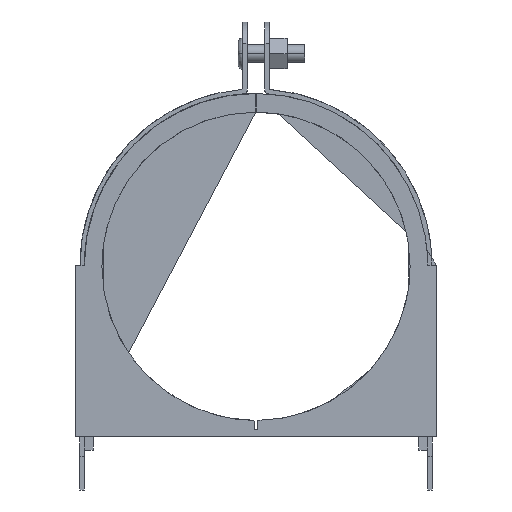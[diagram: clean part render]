
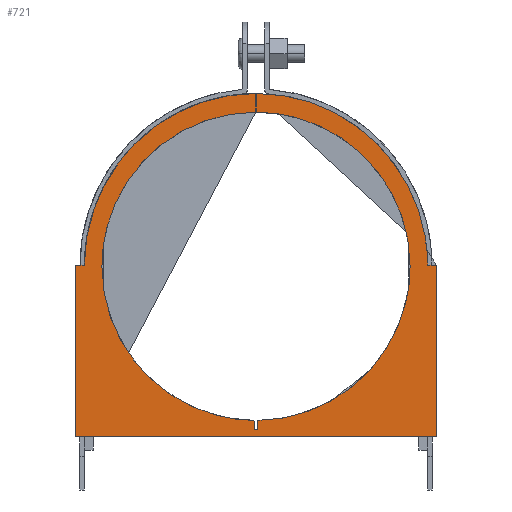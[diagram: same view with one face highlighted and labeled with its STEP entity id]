
A CAD part, front view. The second image highlights one B-rep face of the part: STEP entity #721.
In plain terms, the highlighted planar face has unit normal (0, -1, 0).
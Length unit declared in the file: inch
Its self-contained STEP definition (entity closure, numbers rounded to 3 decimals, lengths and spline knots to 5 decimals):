
#721=ADVANCED_FACE('',(#1559),#1560,.T.);
#1559=FACE_OUTER_BOUND('',#3083,.T.);
#1560=PLANE('',#3084);
#3083=EDGE_LOOP('',(#4480,#4481,#4482,#4483,#4484,#4485,#4486,#4487,#4488,#4489,#4490,#4491,#4492,#4493,#4494,#4495,#4496));
#3084=AXIS2_PLACEMENT_3D('',#4497,#4498,#4499);
#4480=ORIENTED_EDGE('',*,*,#5328,.F.);
#4481=ORIENTED_EDGE('',*,*,#5341,.F.);
#4482=ORIENTED_EDGE('',*,*,#5350,.F.);
#4483=ORIENTED_EDGE('',*,*,#5194,.F.);
#4484=ORIENTED_EDGE('',*,*,#5370,.F.);
#4485=ORIENTED_EDGE('',*,*,#5371,.F.);
#4486=ORIENTED_EDGE('',*,*,#5337,.F.);
#4487=ORIENTED_EDGE('',*,*,#5320,.F.);
#4488=ORIENTED_EDGE('',*,*,#5363,.F.);
#4489=ORIENTED_EDGE('',*,*,#5372,.F.);
#4490=ORIENTED_EDGE('',*,*,#5256,.F.);
#4491=ORIENTED_EDGE('',*,*,#5373,.F.);
#4492=ORIENTED_EDGE('',*,*,#5301,.F.);
#4493=ORIENTED_EDGE('',*,*,#5374,.F.);
#4494=ORIENTED_EDGE('',*,*,#5375,.F.);
#4495=ORIENTED_EDGE('',*,*,#5376,.F.);
#4496=ORIENTED_EDGE('',*,*,#5377,.F.);
#4497=CARTESIAN_POINT('',(2.47991,-0.125,2.97064));
#4498=DIRECTION('',(0.0,-1.0,0.0));
#4499=DIRECTION('',(1.0,0.0,0.0));
#5194=EDGE_CURVE('',#5597,#5598,#5599,.T.);
#5256=EDGE_CURVE('',#5696,#5697,#5698,.T.);
#5301=EDGE_CURVE('',#5762,#5763,#5764,.T.);
#5320=EDGE_CURVE('',#5788,#5789,#5790,.T.);
#5328=EDGE_CURVE('',#5800,#5801,#5802,.T.);
#5337=EDGE_CURVE('',#5789,#5814,#5815,.T.);
#5341=EDGE_CURVE('',#5820,#5800,#5821,.T.);
#5350=EDGE_CURVE('',#5598,#5820,#5831,.T.);
#5363=EDGE_CURVE('',#5847,#5788,#5848,.T.);
#5370=EDGE_CURVE('',#5855,#5597,#5856,.T.);
#5371=EDGE_CURVE('',#5814,#5855,#5857,.T.);
#5372=EDGE_CURVE('',#5697,#5847,#5858,.T.);
#5373=EDGE_CURVE('',#5763,#5696,#5859,.T.);
#5374=EDGE_CURVE('',#5860,#5762,#5861,.T.);
#5375=EDGE_CURVE('',#5862,#5860,#5863,.T.);
#5376=EDGE_CURVE('',#5864,#5862,#5865,.T.);
#5377=EDGE_CURVE('',#5801,#5864,#5866,.T.);
#5597=VERTEX_POINT('',#6164);
#5598=VERTEX_POINT('',#6165);
#5599=LINE('',#6166,#6167);
#5696=VERTEX_POINT('',#6377);
#5697=VERTEX_POINT('',#6378);
#5698=B_SPLINE_CURVE_WITH_KNOTS('',3,(#6379,#6380,#6381,#6382),.UNSPECIFIED.,.F.,.F.,(4,4),(-1.0,-0.0),.UNSPECIFIED.);
#5762=VERTEX_POINT('',#6507);
#5763=VERTEX_POINT('',#6508);
#5764=LINE('',#6509,#6510);
#5788=VERTEX_POINT('',#6544);
#5789=VERTEX_POINT('',#6545);
#5790=B_SPLINE_CURVE_WITH_KNOTS('',3,(#6546,#6547,#6548,#6549),.UNSPECIFIED.,.F.,.F.,(4,4),(-1.0,-0.0),.UNSPECIFIED.);
#5800=VERTEX_POINT('',#6566);
#5801=VERTEX_POINT('',#6567);
#5802=LINE('',#6568,#6569);
#5814=VERTEX_POINT('',#6591);
#5815=LINE('',#6592,#6593);
#5820=VERTEX_POINT('',#6600);
#5821=B_SPLINE_CURVE_WITH_KNOTS('',3,(#6601,#6602,#6603,#6604),.UNSPECIFIED.,.F.,.F.,(4,4),(-1.0,-0.0),.UNSPECIFIED.);
#5831=LINE('',#6619,#6620);
#5847=VERTEX_POINT('',#6664);
#5848=LINE('',#6665,#6666);
#5855=VERTEX_POINT('',#6675);
#5856=LINE('',#6676,#6677);
#5857=LINE('',#6678,#6679);
#5858=B_SPLINE_CURVE_WITH_KNOTS('',3,(#6680,#6681,#6682,#6683),.UNSPECIFIED.,.F.,.F.,(4,4),(-1.0,-0.0),.UNSPECIFIED.);
#5859=LINE('',#6684,#6685);
#5860=VERTEX_POINT('',#6686);
#5861=LINE('',#6687,#6688);
#5862=VERTEX_POINT('',#6689);
#5863=LINE('',#6690,#6691);
#5864=VERTEX_POINT('',#6692);
#5865=B_SPLINE_CURVE_WITH_KNOTS('',3,(#6693,#6694,#6695,#6696),.UNSPECIFIED.,.F.,.F.,(4,4),(-1.0,-0.0),.UNSPECIFIED.);
#5866=B_SPLINE_CURVE_WITH_KNOTS('',3,(#6697,#6698,#6699,#6700),.UNSPECIFIED.,.F.,.F.,(4,4),(-1.0,-0.0),.UNSPECIFIED.);
#6164=CARTESIAN_POINT('',(-0.06249,-0.125,0.74976));
#6165=CARTESIAN_POINT('',(-0.06249,-0.125,3.16722));
#6166=CARTESIAN_POINT('',(-0.06249,-0.125,3.16722));
#6167=VECTOR('',#6994,1.0);
#6377=CARTESIAN_POINT('',(2.50784,-0.125,0.9802));
#6378=CARTESIAN_POINT('',(4.64996,-0.125,3.15011));
#6379=CARTESIAN_POINT('',(2.50784,-0.125,0.9802));
#6380=CARTESIAN_POINT('',(3.69351,-0.125,0.99506));
#6381=CARTESIAN_POINT('',(4.64996,-0.125,1.96092));
#6382=CARTESIAN_POINT('',(4.64996,-0.125,3.15011));
#6507=CARTESIAN_POINT('',(2.47988,-0.125,0.84858));
#6508=CARTESIAN_POINT('',(2.49631,-0.125,0.85304));
#6509=CARTESIAN_POINT('',(2.49631,-0.125,0.85304));
#6510=VECTOR('',#7043,1.0);
#6544=CARTESIAN_POINT('',(2.48569,-0.125,5.58389));
#6545=CARTESIAN_POINT('',(4.89728,-0.125,3.16734));
#6546=CARTESIAN_POINT('',(2.48569,-0.125,5.58389));
#6547=CARTESIAN_POINT('',(3.81316,-0.125,5.58067));
#6548=CARTESIAN_POINT('',(4.88925,-0.125,4.49376));
#6549=CARTESIAN_POINT('',(4.89728,-0.125,3.16734));
#6566=CARTESIAN_POINT('',(2.47426,-0.125,5.58388));
#6567=CARTESIAN_POINT('',(2.47434,-0.125,5.32011));
#6568=CARTESIAN_POINT('',(2.47434,-0.125,5.32011));
#6569=VECTOR('',#7055,1.0);
#6591=CARTESIAN_POINT('',(5.0222,-0.125,3.16722));
#6592=CARTESIAN_POINT('',(5.0222,-0.125,3.16722));
#6593=VECTOR('',#7060,1.0);
#6600=CARTESIAN_POINT('',(0.06233,-0.125,3.16723));
#6601=CARTESIAN_POINT('',(0.06233,-0.125,3.16723));
#6602=CARTESIAN_POINT('',(0.07024,-0.125,4.49383));
#6603=CARTESIAN_POINT('',(1.14661,-0.125,5.5808));
#6604=CARTESIAN_POINT('',(2.47426,-0.125,5.58388));
#6619=CARTESIAN_POINT('',(0.06233,-0.125,3.16723));
#6620=VECTOR('',#7065,1.0);
#6664=CARTESIAN_POINT('',(2.48572,-0.125,5.32011));
#6665=CARTESIAN_POINT('',(2.48569,-0.125,5.58389));
#6666=VECTOR('',#7073,1.0);
#6675=CARTESIAN_POINT('',(5.0222,-0.125,0.74976));
#6676=CARTESIAN_POINT('',(-0.06249,-0.125,0.74976));
#6677=VECTOR('',#7076,1.0);
#6678=CARTESIAN_POINT('',(5.0222,-0.125,0.74976));
#6679=VECTOR('',#7077,1.0);
#6680=CARTESIAN_POINT('',(4.64996,-0.125,3.15011));
#6681=CARTESIAN_POINT('',(4.64996,-0.125,4.34671));
#6682=CARTESIAN_POINT('',(3.68164,-0.125,5.3171));
#6683=CARTESIAN_POINT('',(2.48572,-0.125,5.32011));
#6684=CARTESIAN_POINT('',(2.50784,-0.125,0.9802));
#6685=VECTOR('',#7078,1.);
#6686=CARTESIAN_POINT('',(2.46499,-0.125,0.85304));
#6687=CARTESIAN_POINT('',(2.47988,-0.125,0.84858));
#6688=VECTOR('',#7079,1.0);
#6689=CARTESIAN_POINT('',(2.45095,-0.125,0.98021));
#6690=CARTESIAN_POINT('',(2.46499,-0.125,0.85304));
#6691=VECTOR('',#7080,1.0);
#6692=CARTESIAN_POINT('',(0.30996,-0.125,3.15011));
#6693=CARTESIAN_POINT('',(0.30996,-0.125,3.15011));
#6694=CARTESIAN_POINT('',(0.30996,-0.125,1.96138));
#6695=CARTESIAN_POINT('',(1.26593,-0.125,0.9958));
#6696=CARTESIAN_POINT('',(2.45095,-0.125,0.98021));
#6697=CARTESIAN_POINT('',(2.47434,-0.125,5.32011));
#6698=CARTESIAN_POINT('',(1.27852,-0.125,5.317));
#6699=CARTESIAN_POINT('',(0.30996,-0.125,4.34664));
#6700=CARTESIAN_POINT('',(0.30996,-0.125,3.15011));
#6994=DIRECTION('',(0.0,0.0,1.0));
#7043=DIRECTION('',(0.965,0.0,0.262));
#7055=DIRECTION('',(0.,0.0,-1.));
#7060=DIRECTION('',(1.,0.0,-0.001));
#7065=DIRECTION('',(1.,0.0,0.));
#7073=DIRECTION('',(0.,0.0,1.));
#7076=DIRECTION('',(-1.0,0.0,-0.0));
#7077=DIRECTION('',(-0.0,0.0,-1.0));
#7078=DIRECTION('',(0.09,0.0,0.996));
#7079=DIRECTION('',(0.958,0.0,-0.287));
#7080=DIRECTION('',(0.11,0.0,-0.994));
